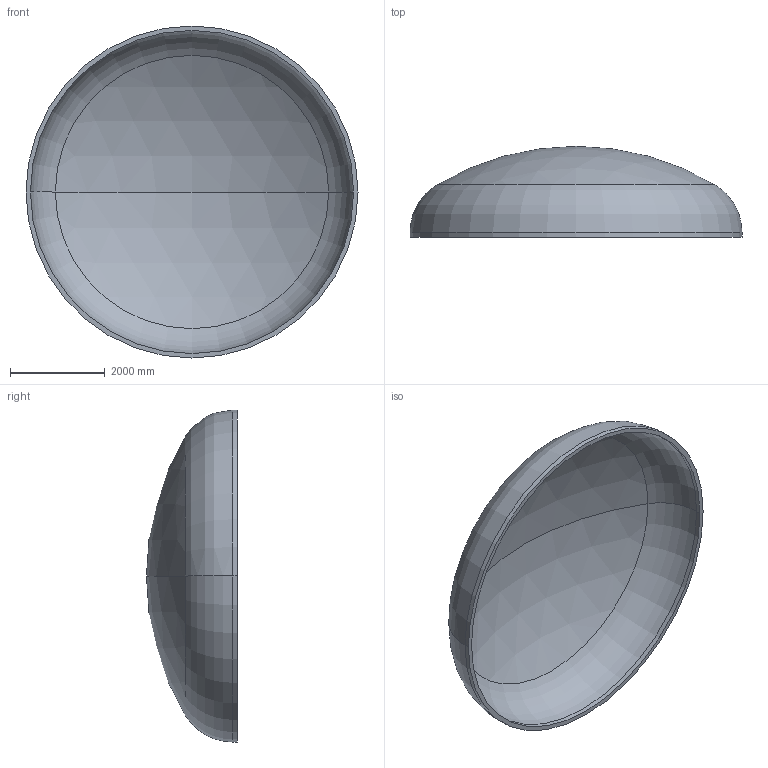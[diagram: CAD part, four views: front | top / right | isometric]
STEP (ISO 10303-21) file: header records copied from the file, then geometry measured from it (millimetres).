
FILE_DESCRIPTION (( 'STEP AP203' ), '1' );
FILE_NAME ('DIN 28013 Korbbogenform_-_Boden DIN 28013 - 7000 x 100 - I - s=94.step', '2016-07-04T10:49:48', ( '' ), ( '' ), 'SwSTEP 2.0', 'SolidWorks 2013', '' );
FILE_SCHEMA (( 'CONFIG_CONTROL_DESIGN' ));
Length unit declared in the file: millimetre
Products named in the file (1): DIN 28013 Korbbogenform_-_Boden DIN 28013 - 7000 x 100 - I - s=94
Bounding box: 7000 x 1918.42 x 7000 mm (x, y, z)
Volume: 5127856285 mm3; surface area: 111161198.6 mm2
Topology: 1 solids, 1 shells, 13 faces, 24 edges, 14 vertices
Faces by surface type: torus 4, cylinder 4, sphere 4, plane 1
Entity records: 407 total; most frequent: DIRECTION 72, CARTESIAN_POINT 52, ORIENTED_EDGE 48, AXIS2_PLACEMENT_3D 34, EDGE_CURVE 24, CIRCLE 20, EDGE_LOOP 14, VERTEX_POINT 14
